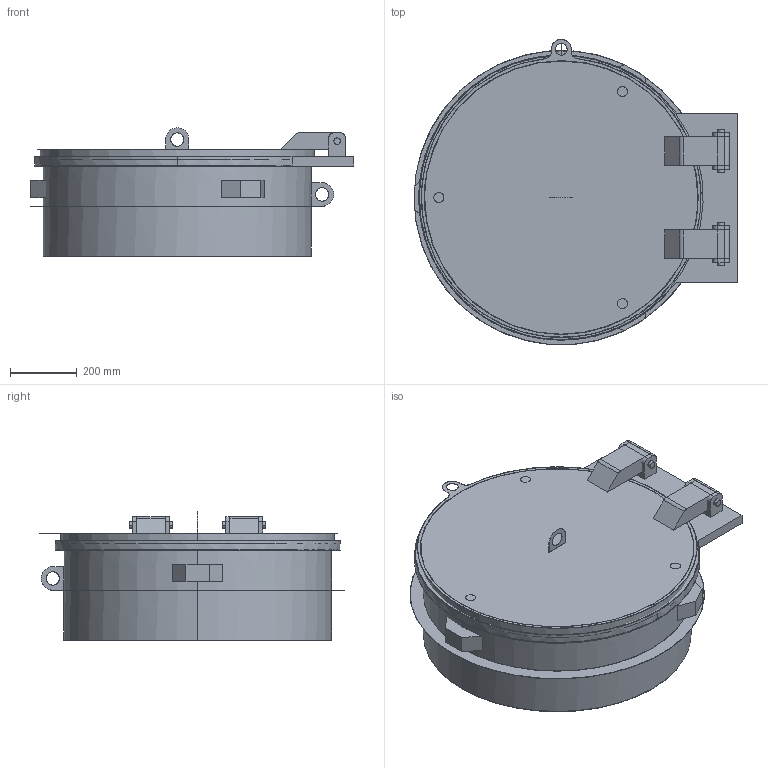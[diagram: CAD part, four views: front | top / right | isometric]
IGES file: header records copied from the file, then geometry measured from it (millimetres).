
Start section:  PTC IGES file: 52471712.igs
Global section: file name: 52471712.igs; native system: Creo Parametric by PTC Inc.; preprocessor: 2022162; author: stat; organization: Unknown; date: 20251030.083601; units: millimetre
Bounding box: 972.5 x 916.04 x 384.89 mm (x, y, z)
Surface area: 3979624 mm2 (no closed solid volume)
Topology: 0 solids, 0 shells, 180 faces, 832 edges, 832 vertices
Faces by surface type: bspline 110, revolution 70
